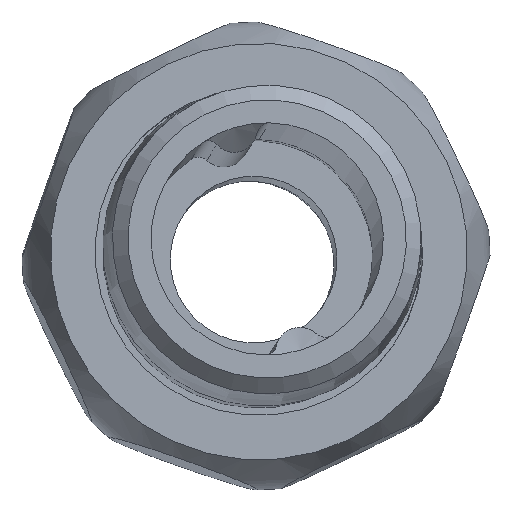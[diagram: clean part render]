
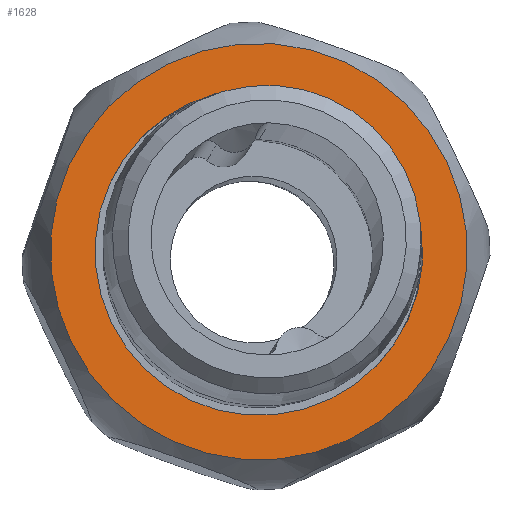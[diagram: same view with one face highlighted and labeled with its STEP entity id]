
A CAD part, left-side view. The second image highlights one B-rep face of the part: STEP entity #1628.
In plain terms, the highlighted planar face has unit normal (-0.999, -0.029, 0.044) as drawn and (1, 0, 0) by its records, which use the part's own axes.
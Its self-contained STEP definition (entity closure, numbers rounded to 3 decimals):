
#1594=CARTESIAN_POINT('',(16.5,17.5,0.0));
#1595=VERTEX_POINT('',#1594);
#1596=CARTESIAN_POINT('',(16.5,0.0,0.0));
#1597=DIRECTION('',(1.0,0.0,0.0));
#1598=DIRECTION('',(0.0,1.0,0.0));
#1599=AXIS2_PLACEMENT_3D('',#1596,#1597,#1598);
#1600=CIRCLE('',#1599,17.5);
#1601=EDGE_CURVE('',#1595,#1595,#1600,.T.);
#1609=CARTESIAN_POINT('',(16.5,15.625,0.0));
#1610=DIRECTION('',(1.0,0.0,0.0));
#1611=DIRECTION('',(0.0,0.0,-1.0));
#1612=AXIS2_PLACEMENT_3D('',#1609,#1610,#1611);
#1613=PLANE('',#1612);
#1614=ORIENTED_EDGE('',*,*,#1601,.T.);
#1615=EDGE_LOOP('',(#1614));
#1616=FACE_OUTER_BOUND('',#1615,.T.);
#1617=CARTESIAN_POINT('',(16.5,13.75,0.0));
#1618=VERTEX_POINT('',#1617);
#1619=CARTESIAN_POINT('',(16.5,0.0,0.0));
#1620=DIRECTION('',(1.0,0.0,0.0));
#1621=DIRECTION('',(0.0,1.0,0.0));
#1622=AXIS2_PLACEMENT_3D('',#1619,#1620,#1621);
#1623=CIRCLE('',#1622,13.75);
#1624=EDGE_CURVE('',#1618,#1618,#1623,.T.);
#1625=ORIENTED_EDGE('',*,*,#1624,.F.);
#1626=EDGE_LOOP('',(#1625));
#1627=FACE_BOUND('',#1626,.T.);
#1628=ADVANCED_FACE('',(#1616,#1627),#1613,.T.);
